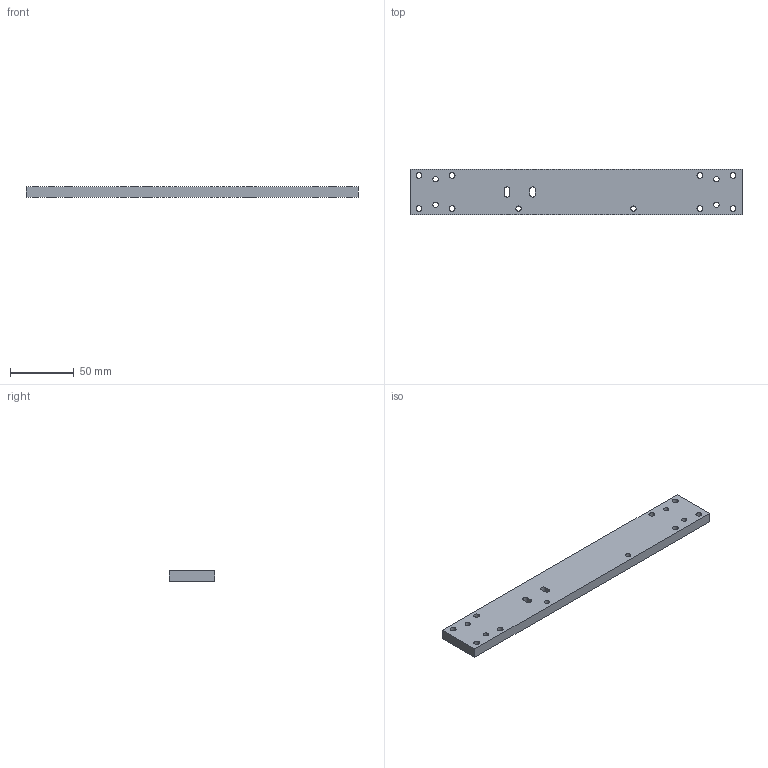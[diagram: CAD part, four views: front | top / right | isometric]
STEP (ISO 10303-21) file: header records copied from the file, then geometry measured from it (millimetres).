
FILE_DESCRIPTION(('STEP AP203'), '1');
FILE_NAME('ÒÏÏÔ1801.01.07.00.007 - Ïëèòà ðåáåð', '', ('UNSPECIFIED'), ('UNSPECIFIED'), 'C3D Converter', 'C3D Toolkit', '');
FILE_SCHEMA(('CONFIG_CONTROL_DESIGN'));
Length unit declared in the file: millimetre
Products named in the file (1): ТППФ1801.01.07.00.007
Bounding box: 260 x 36 x 8 mm (x, y, z)
Volume: 72666.1 mm3; surface area: 24742.4 mm2
Topology: 1 solids, 1 shells, 34 faces, 90 edges, 58 vertices
Faces by surface type: cylinder 18, plane 10, cone 6
Full cylindrical faces by diameter (mm): 4.134 x6, 4.5 x8
Entity records: 1339 total; most frequent: DIRECTION 182, CARTESIAN_POINT 163, ORIENTED_EDGE 140, EDGE_LOOP 86, AXIS2_PLACEMENT_3D 77, EDGE_CURVE 70, VERTEX_POINT 58, FACE_BOUND 46
